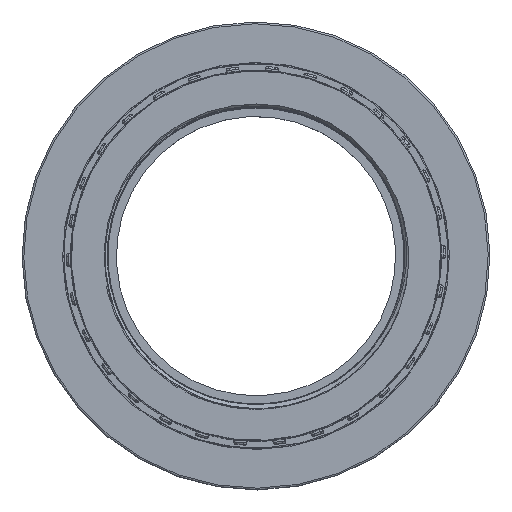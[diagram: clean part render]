
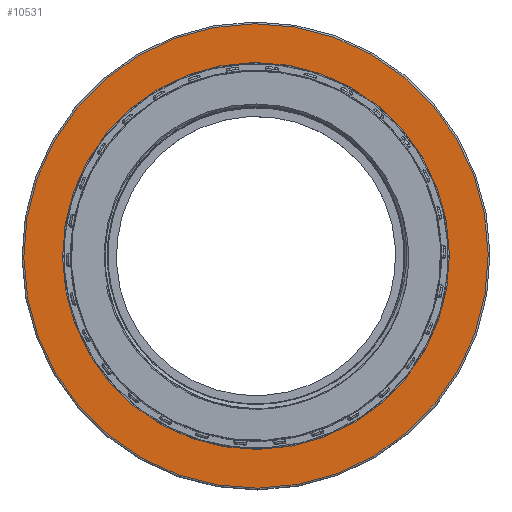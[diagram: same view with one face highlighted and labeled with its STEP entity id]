
A CAD part, top view. The second image highlights one B-rep face of the part: STEP entity #10531.
In plain terms, the highlighted planar face has unit normal (0, 0, 1).
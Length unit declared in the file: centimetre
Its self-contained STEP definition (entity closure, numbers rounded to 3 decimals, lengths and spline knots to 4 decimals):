
#2077=FACE_BOUND('',#3030,.T.);
#2442=FACE_OUTER_BOUND('',#3029,.T.);
#3029=EDGE_LOOP('',(#8153));
#3030=EDGE_LOOP('',(#8154));
#3646=CIRCLE('',#11418,6.65);
#3648=CIRCLE('',#11421,5.54);
#4434=VERTEX_POINT('',#22856);
#4436=VERTEX_POINT('',#22861);
#5739=EDGE_CURVE('',#4434,#4434,#3646,.T.);
#5741=EDGE_CURVE('',#4436,#4436,#3648,.T.);
#8153=ORIENTED_EDGE('',*,*,#5739,.F.);
#8154=ORIENTED_EDGE('',*,*,#5741,.T.);
#9510=PLANE('',#11420);
#10531=ADVANCED_FACE('',(#2442,#2077),#9510,.T.);
#11418=AXIS2_PLACEMENT_3D('',#22857,#13611,#13612);
#11420=AXIS2_PLACEMENT_3D('',#22860,#13615,#13616);
#11421=AXIS2_PLACEMENT_3D('',#22862,#13617,#13618);
#13611=DIRECTION('center_axis',(0.,0.,
-1.));
#13612=DIRECTION('ref_axis',(0.87,-0.493,0.));
#13615=DIRECTION('center_axis',(0.,0.,
1.));
#13616=DIRECTION('ref_axis',(-0.493,-0.87,0.));
#13617=DIRECTION('center_axis',(0.,0.,
-1.));
#13618=DIRECTION('ref_axis',(0.87,-0.493,0.));
#22856=CARTESIAN_POINT('',(-5.7839,3.2816,2.89));
#22857=CARTESIAN_POINT('Origin',(0.,0.,
2.89));
#22860=CARTESIAN_POINT('Origin',(-5.8274,3.3063,2.89));
#22861=CARTESIAN_POINT('',(-4.8185,2.7339,2.89));
#22862=CARTESIAN_POINT('Origin',(0.,0.,
2.89));
